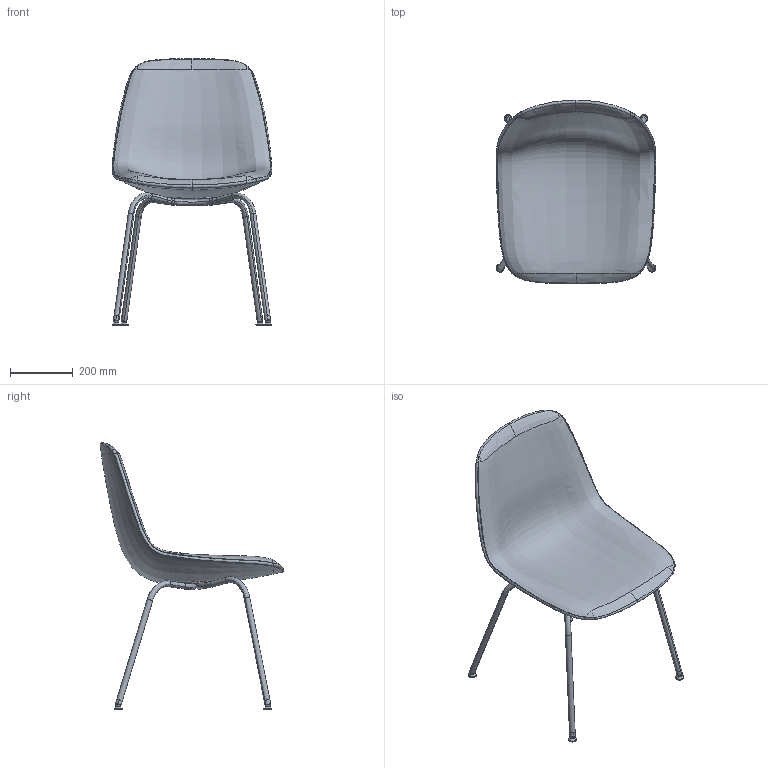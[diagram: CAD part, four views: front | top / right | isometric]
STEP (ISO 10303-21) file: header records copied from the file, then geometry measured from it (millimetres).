
FILE_DESCRIPTION(/* description */ (''),/* implementation_level */ '2;1');
FILE_NAME(/* name */ '4810 Eyes 4 Leg Chair',/* time_stamp */ '2021-04-06T22:01:27+02:00',/* author */ (''),/* organization */ (''),/* preprocessor_version */ 'ST-DEVELOPER v16.5',/* originating_system */ '',/* authorisation */ '');
FILE_SCHEMA (('CONFIG_CONTROL_DESIGN'));
Length unit declared in the file: millimetre
Products named in the file (1): Document
Bounding box: 507.99 x 584.65 x 848.77 mm (x, y, z)
Volume: 752083.7 mm3; surface area: 1035595.3 mm2
Topology: 7 solids, 10 shells, 186 faces, 478 edges, 297 vertices
Faces by surface type: bspline 124, cylinder 46, plane 16
Entity records: 28532 total; most frequent: CARTESIAN_POINT 25619, ORIENTED_EDGE 913, EDGE_CURVE 458, VERTEX_POINT 297, B_SPLINE_CURVE_WITH_KNOTS 286, EDGE_LOOP 203, ADVANCED_FACE 186, FACE_OUTER_BOUND 186
